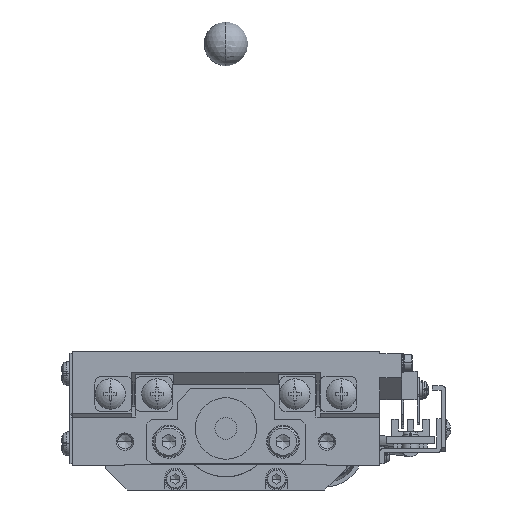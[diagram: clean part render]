
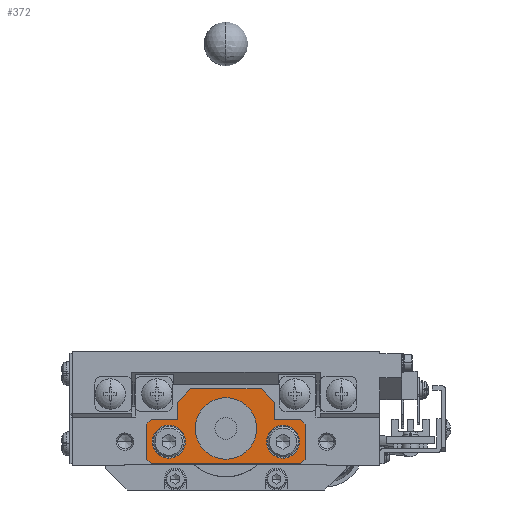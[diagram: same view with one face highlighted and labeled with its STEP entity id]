
A CAD part, left-side view. The second image highlights one B-rep face of the part: STEP entity #372.
In plain terms, the highlighted planar face has unit normal (-1, 0, 0).
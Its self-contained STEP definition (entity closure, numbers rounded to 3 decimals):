
#372=ADVANCED_FACE('',(#4024,#4025,#4026,#4027),#4023,.T.);
#4023=PLANE('',#33383);
#4024=FACE_OUTER_BOUND('',#33384,.T.);
#4025=FACE_BOUND('',#33385,.T.);
#4026=FACE_BOUND('',#33386,.T.);
#4027=FACE_BOUND('',#33387,.T.);
#33380=CARTESIAN_POINT('',(-39.5,21.6,-1.2));
#33381=DIRECTION('',(-1.,0.,0.));
#33382=DIRECTION('',(0.,-1.,0.));
#33383=AXIS2_PLACEMENT_3D('',#33380,#33381,#33382);
#33384=EDGE_LOOP('',(#51269,#51270,#51271,#51272,#51273,#51274,#51275,#51276,#51277,#51278,#51279,#51280,#51281,#51282));
#33385=EDGE_LOOP('',(#51283,#51284));
#33386=EDGE_LOOP('',(#51285,#51286));
#33387=EDGE_LOOP('',(#51287,#51288));
#51269=ORIENTED_EDGE('',*,*,#66003,.T.);
#51270=ORIENTED_EDGE('',*,*,#66004,.T.);
#51271=ORIENTED_EDGE('',*,*,#66005,.T.);
#51272=ORIENTED_EDGE('',*,*,#66006,.T.);
#51273=ORIENTED_EDGE('',*,*,#66007,.T.);
#51274=ORIENTED_EDGE('',*,*,#66008,.T.);
#51275=ORIENTED_EDGE('',*,*,#66009,.T.);
#51276=ORIENTED_EDGE('',*,*,#66010,.T.);
#51277=ORIENTED_EDGE('',*,*,#66011,.T.);
#51278=ORIENTED_EDGE('',*,*,#66012,.T.);
#51279=ORIENTED_EDGE('',*,*,#66013,.T.);
#51280=ORIENTED_EDGE('',*,*,#66014,.T.);
#51281=ORIENTED_EDGE('',*,*,#66015,.T.);
#51282=ORIENTED_EDGE('',*,*,#66016,.T.);
#51283=ORIENTED_EDGE('',*,*,#66017,.T.);
#51284=ORIENTED_EDGE('',*,*,#66018,.T.);
#51285=ORIENTED_EDGE('',*,*,#66019,.T.);
#51286=ORIENTED_EDGE('',*,*,#66020,.T.);
#51287=ORIENTED_EDGE('',*,*,#66021,.T.);
#51288=ORIENTED_EDGE('',*,*,#66022,.T.);
#66003=EDGE_CURVE('',#75455,#75456,#75457,.T.);
#66004=EDGE_CURVE('',#75456,#75463,#75464,.T.);
#66005=EDGE_CURVE('',#75463,#75470,#75471,.T.);
#66006=EDGE_CURVE('',#75470,#75477,#75478,.T.);
#66007=EDGE_CURVE('',#75477,#75484,#75485,.T.);
#66008=EDGE_CURVE('',#75484,#75491,#75492,.T.);
#66009=EDGE_CURVE('',#75491,#75498,#75499,.T.);
#66010=EDGE_CURVE('',#75498,#75505,#75506,.T.);
#66011=EDGE_CURVE('',#75505,#75512,#75513,.T.);
#66012=EDGE_CURVE('',#75512,#75519,#75520,.T.);
#66013=EDGE_CURVE('',#75519,#75526,#75527,.T.);
#66014=EDGE_CURVE('',#75526,#75533,#75534,.T.);
#66015=EDGE_CURVE('',#75533,#75540,#75541,.T.);
#66016=EDGE_CURVE('',#75540,#75455,#75547,.T.);
#66017=EDGE_CURVE('',#75553,#75554,#75555,.T.);
#66018=EDGE_CURVE('',#75554,#75553,#75561,.T.);
#66019=EDGE_CURVE('',#75567,#75568,#75569,.T.);
#66020=EDGE_CURVE('',#75568,#75567,#75575,.T.);
#66021=EDGE_CURVE('',#75581,#75582,#75583,.T.);
#66022=EDGE_CURVE('',#75582,#75581,#75589,.T.);
#75455=VERTEX_POINT('',#124047);
#75456=VERTEX_POINT('',#124048);
#75457=LINE('',#124049,#124050);
#75463=VERTEX_POINT('',#124052);
#75464=LINE('',#124053,#124054);
#75470=VERTEX_POINT('',#124056);
#75471=LINE('',#124057,#124058);
#75477=VERTEX_POINT('',#124060);
#75478=LINE('',#124061,#124062);
#75484=VERTEX_POINT('',#124064);
#75485=LINE('',#124065,#124066);
#75491=VERTEX_POINT('',#124068);
#75492=LINE('',#124069,#124070);
#75498=VERTEX_POINT('',#124072);
#75499=LINE('',#124073,#124074);
#75505=VERTEX_POINT('',#124076);
#75506=LINE('',#124077,#124078);
#75512=VERTEX_POINT('',#124080);
#75513=LINE('',#124081,#124082);
#75519=VERTEX_POINT('',#124084);
#75520=LINE('',#124085,#124086);
#75526=VERTEX_POINT('',#124088);
#75527=LINE('',#124089,#124090);
#75533=VERTEX_POINT('',#124092);
#75534=LINE('',#124093,#124094);
#75540=VERTEX_POINT('',#124096);
#75541=LINE('',#124097,#124098);
#75547=LINE('',#124100,#124101);
#75553=VERTEX_POINT('',#124103);
#75554=VERTEX_POINT('',#124104);
#75555=CIRCLE('',#124108,3.75);
#75561=CIRCLE('',#124112,3.75);
#75567=VERTEX_POINT('',#124113);
#75568=VERTEX_POINT('',#124114);
#75569=CIRCLE('',#124118,7.);
#75575=CIRCLE('',#124122,7.);
#75581=VERTEX_POINT('',#124123);
#75582=VERTEX_POINT('',#124124);
#75583=CIRCLE('',#124128,3.75);
#75589=CIRCLE('',#124132,3.75);
#124047=CARTESIAN_POINT('',(-39.5,-11.,10.5));
#124048=CARTESIAN_POINT('',(-39.5,-11.,14.5));
#124049=CARTESIAN_POINT('',(-39.5,-11.,10.5));
#124050=VECTOR('',#124051,4.);
#124051=DIRECTION('',(0.,0.,1.));
#124052=CARTESIAN_POINT('',(-39.5,-8.,17.5));
#124053=CARTESIAN_POINT('',(-39.5,-11.,14.5));
#124054=VECTOR('',#124055,4.243);
#124055=DIRECTION('',(0.,0.707,0.707));
#124056=CARTESIAN_POINT('',(-39.5,8.,17.5));
#124057=CARTESIAN_POINT('',(-39.5,-8.,17.5));
#124058=VECTOR('',#124059,16.);
#124059=DIRECTION('',(0.,1.,0.));
#124060=CARTESIAN_POINT('',(-39.5,11.,14.5));
#124061=CARTESIAN_POINT('',(-39.5,8.,17.5));
#124062=VECTOR('',#124063,4.243);
#124063=DIRECTION('',(0.,0.707,-0.707));
#124064=CARTESIAN_POINT('',(-39.5,11.,10.5));
#124065=CARTESIAN_POINT('',(-39.5,11.,14.5));
#124066=VECTOR('',#124067,4.);
#124067=DIRECTION('',(0.,0.,-1.));
#124068=CARTESIAN_POINT('',(-39.5,17.,10.5));
#124069=CARTESIAN_POINT('',(-39.5,11.,10.5));
#124070=VECTOR('',#124071,6.);
#124071=DIRECTION('',(0.,1.,0.));
#124072=CARTESIAN_POINT('',(-39.5,18.,9.5));
#124073=CARTESIAN_POINT('',(-39.5,17.,10.5));
#124074=VECTOR('',#124075,1.414);
#124075=DIRECTION('',(0.,0.707,-0.707));
#124076=CARTESIAN_POINT('',(-39.5,18.,1.5));
#124077=CARTESIAN_POINT('',(-39.5,18.,9.5));
#124078=VECTOR('',#124079,8.);
#124079=DIRECTION('',(0.,0.,-1.));
#124080=CARTESIAN_POINT('',(-39.5,17.,0.5));
#124081=CARTESIAN_POINT('',(-39.5,18.,1.5));
#124082=VECTOR('',#124083,1.414);
#124083=DIRECTION('',(0.,-0.707,-0.707));
#124084=CARTESIAN_POINT('',(-39.5,-17.,0.5));
#124085=CARTESIAN_POINT('',(-39.5,17.,0.5));
#124086=VECTOR('',#124087,34.);
#124087=DIRECTION('',(0.,-1.,0.));
#124088=CARTESIAN_POINT('',(-39.5,-18.,1.5));
#124089=CARTESIAN_POINT('',(-39.5,-17.,0.5));
#124090=VECTOR('',#124091,1.414);
#124091=DIRECTION('',(0.,-0.707,0.707));
#124092=CARTESIAN_POINT('',(-39.5,-18.,9.5));
#124093=CARTESIAN_POINT('',(-39.5,-18.,1.5));
#124094=VECTOR('',#124095,8.);
#124095=DIRECTION('',(0.,0.,1.));
#124096=CARTESIAN_POINT('',(-39.5,-17.,10.5));
#124097=CARTESIAN_POINT('',(-39.5,-18.,9.5));
#124098=VECTOR('',#124099,1.414);
#124099=DIRECTION('',(0.,0.707,0.707));
#124100=CARTESIAN_POINT('',(-39.5,-17.,10.5));
#124101=VECTOR('',#124102,6.);
#124102=DIRECTION('',(0.,1.,0.));
#124103=CARTESIAN_POINT('',(-39.5,16.75,5.5));
#124104=CARTESIAN_POINT('',(-39.5,9.25,5.5));
#124105=CARTESIAN_POINT('',(-39.5,13.,5.5));
#124106=DIRECTION('',(1.,0.,0.));
#124107=DIRECTION('',(0.,1.,0.));
#124108=AXIS2_PLACEMENT_3D('',#124105,#124106,#124107);
#124109=CARTESIAN_POINT('',(-39.5,13.,5.5));
#124110=DIRECTION('',(1.,0.,0.));
#124111=DIRECTION('',(0.,1.,0.));
#124112=AXIS2_PLACEMENT_3D('',#124109,#124110,#124111);
#124113=CARTESIAN_POINT('',(-39.5,-7.,8.5));
#124114=CARTESIAN_POINT('',(-39.5,7.,8.5));
#124115=CARTESIAN_POINT('',(-39.5,0.,8.5));
#124116=DIRECTION('',(1.,0.,0.));
#124117=DIRECTION('',(0.,-1.,0.));
#124118=AXIS2_PLACEMENT_3D('',#124115,#124116,#124117);
#124119=CARTESIAN_POINT('',(-39.5,0.,8.5));
#124120=DIRECTION('',(1.,0.,0.));
#124121=DIRECTION('',(0.,-1.,0.));
#124122=AXIS2_PLACEMENT_3D('',#124119,#124120,#124121);
#124123=CARTESIAN_POINT('',(-39.5,-9.25,5.5));
#124124=CARTESIAN_POINT('',(-39.5,-16.75,5.5));
#124125=CARTESIAN_POINT('',(-39.5,-13.,5.5));
#124126=DIRECTION('',(1.,0.,0.));
#124127=DIRECTION('',(0.,1.,0.));
#124128=AXIS2_PLACEMENT_3D('',#124125,#124126,#124127);
#124129=CARTESIAN_POINT('',(-39.5,-13.,5.5));
#124130=DIRECTION('',(1.,0.,0.));
#124131=DIRECTION('',(0.,1.,0.));
#124132=AXIS2_PLACEMENT_3D('',#124129,#124130,#124131);
